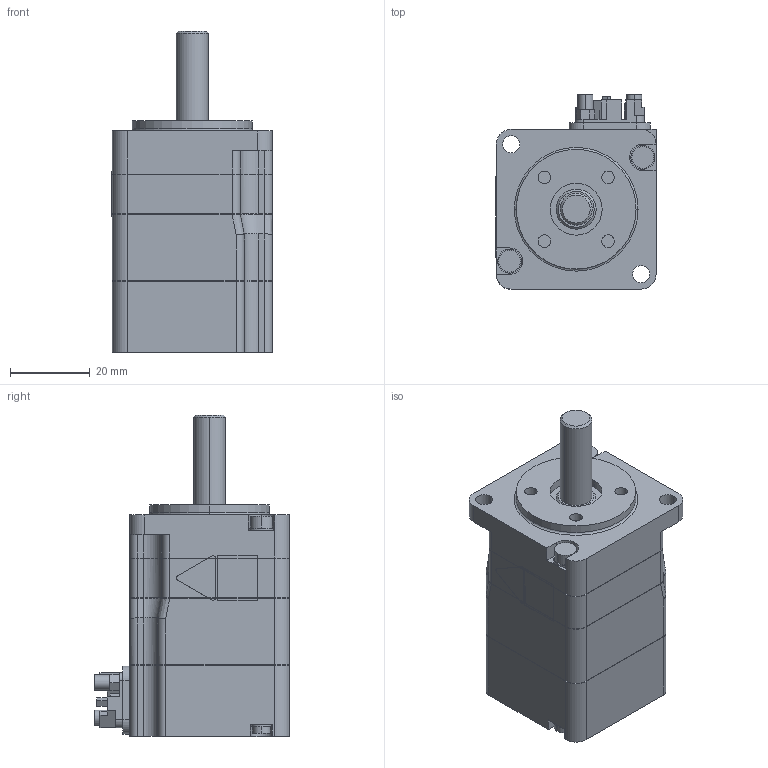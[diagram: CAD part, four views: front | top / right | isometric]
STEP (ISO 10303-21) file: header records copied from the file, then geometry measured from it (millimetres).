
FILE_DESCRIPTION (( 'STEP AP203' ), '1' );
FILE_NAME ('sgmxj_a5aua21a1.STEP', '2021-01-13T08:01:05', ( '' ), ( '' ), 'SwSTEP 2.0', 'SolidWorks 2016', '' );
FILE_SCHEMA (( 'CONFIG_CONTROL_DESIGN' ));
Length unit declared in the file: millimetre
Products named in the file (1): sgmxj_a5aua21a1
Bounding box: 40.1 x 48.8 x 80.6 mm (x, y, z)
Volume: 86055.3 mm3; surface area: 14955.6 mm2
Topology: 1 solids, 1 shells, 345 faces, 925 edges, 609 vertices
Faces by surface type: plane 204, cylinder 124, bspline 11, cone 4, torus 2
Entity records: 11126 total; most frequent: CARTESIAN_POINT 2254, ORIENTED_EDGE 1850, DIRECTION 1810, EDGE_CURVE 925, VECTOR 630, LINE 630, VERTEX_POINT 609, AXIS2_PLACEMENT_3D 590
